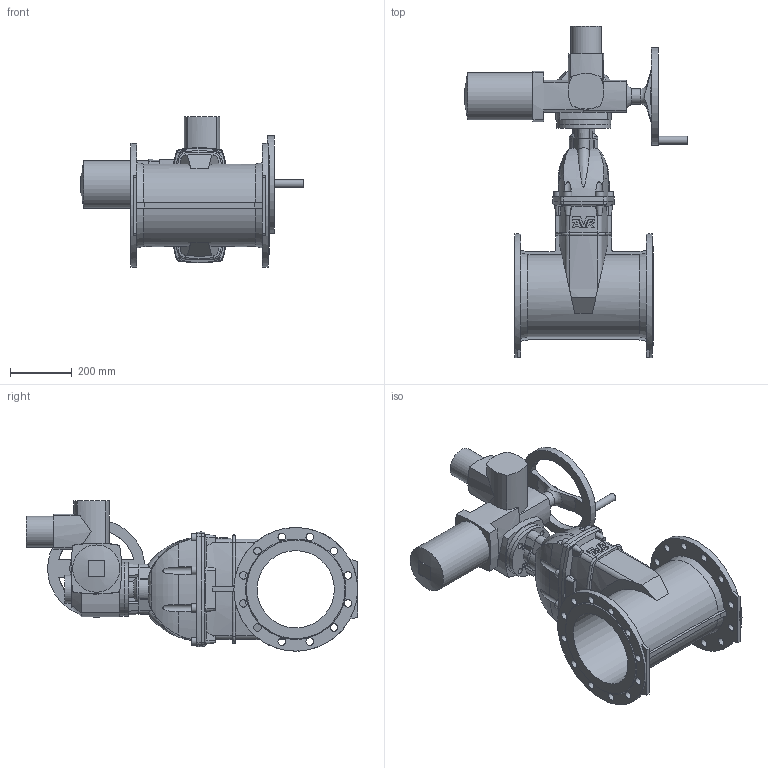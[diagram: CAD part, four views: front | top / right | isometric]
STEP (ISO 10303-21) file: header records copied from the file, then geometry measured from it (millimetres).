
FILE_DESCRIPTION (( 'STEP AP203' ), '1' );
FILE_NAME ('O_15_72_DN250_00_step with AUMA.STEP', '2015-06-11T07:39:43', ( '' ), ( '' ), 'SwSTEP 2.0', 'SolidWorks 2012', '' );
FILE_SCHEMA (( 'CONFIG_CONTROL_DESIGN' ));
Length unit declared in the file: millimetre
Products named in the file (1): O_15_72_DN250_00_step with AUMA
Bounding box: 721 x 1071 x 486 mm (x, y, z)
Volume: 40387150.5 mm3; surface area: 2101937.2 mm2
Topology: 1 solids, 1 shells, 400 faces, 1075 edges, 696 vertices
Faces by surface type: plane 161, cylinder 128, cone 89, torus 19, bspline 2, sphere 1
Full cylindrical faces by diameter (mm): 12 x4, 18 x4, 24.5 x24, 25 x1, 50 x1, 56 x1, 90 x1, 100 x1, 153 x1, 175 x2, 249 x1, 250 x1, 315 x1, 400 x2
Entity records: 14261 total; most frequent: CARTESIAN_POINT 4615, ORIENTED_EDGE 1984, DIRECTION 1966, EDGE_CURVE 992, AXIS2_PLACEMENT_3D 806, VERTEX_POINT 666, EDGE_LOOP 526, FACE_OUTER_BOUND 447
